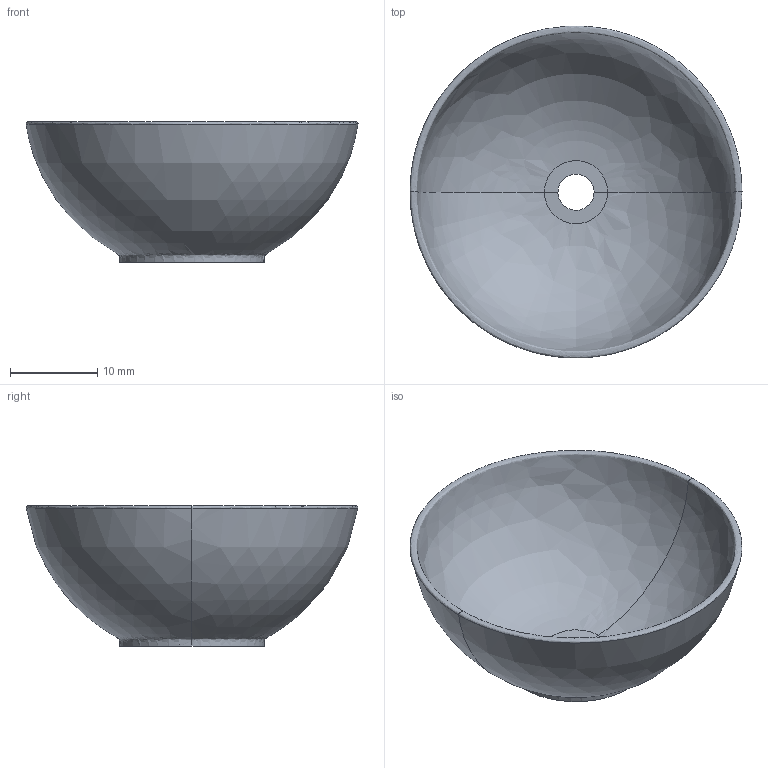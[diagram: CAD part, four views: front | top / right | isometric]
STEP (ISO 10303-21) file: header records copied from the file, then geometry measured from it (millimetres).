
FILE_DESCRIPTION(/* description */ (''),/* implementation_level */ '2;1');
FILE_NAME(/* name */ 'FLAVIA~2',/* time_stamp */ '2019-12-19T11:45:48+01:00',/* author */ (''),/* organization */ (''),/* preprocessor_version */ 'ST-DEVELOPER v16.5',/* originating_system */ '',/* authorisation */ '');
FILE_SCHEMA (('AUTOMOTIVE_DESIGN'));
Length unit declared in the file: millimetre
Products named in the file (1): Document
Bounding box: 38.01 x 37.97 x 16.06 mm (x, y, z)
Volume: 1409.5 mm3; surface area: 3985.3 mm2
Topology: 1 solids, 1 shells, 12 faces, 24 edges, 12 vertices
Faces by surface type: bspline 12
Entity records: 597 total; most frequent: CARTESIAN_POINT 446, ORIENTED_EDGE 48, EDGE_CURVE 24, ADVANCED_FACE 12, FACE_OUTER_BOUND 12, EDGE_LOOP 12, VERTEX_POINT 12, B_SPLINE_CURVE_WITH_KNOTS 6
